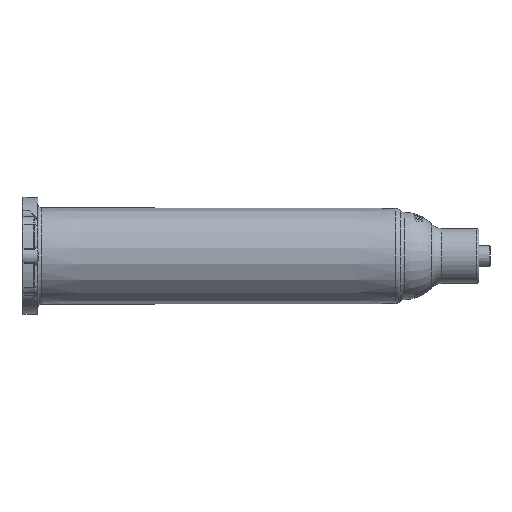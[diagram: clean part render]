
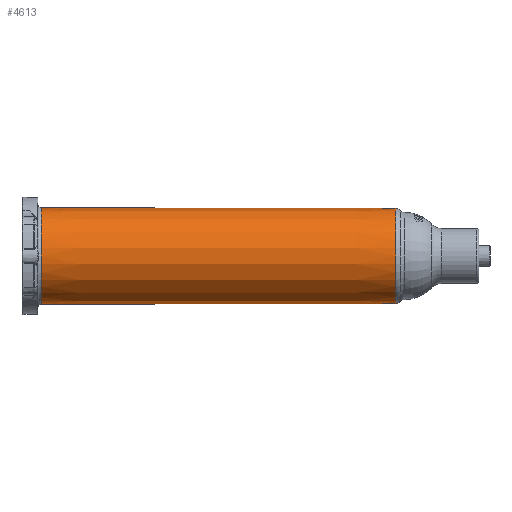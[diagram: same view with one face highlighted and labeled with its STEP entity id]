
A CAD part, left-side view. The second image highlights one B-rep face of the part: STEP entity #4613.
In plain terms, the highlighted conical face has half-angle 0.099 degrees and reference radius 9.228 mm.
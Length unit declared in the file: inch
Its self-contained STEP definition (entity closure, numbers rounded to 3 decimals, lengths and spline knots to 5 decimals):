
#212 = EDGE_CURVE ( 'NONE', #19037, #15911, #1696, .T. ) ;
#370 = EDGE_LOOP ( 'NONE', ( #2321, #16431, #5254, #17527 ) ) ;
#541 = VECTOR ( 'NONE', #8083, 39.37008 ) ;
#1696 = CIRCLE ( 'NONE', #9738, 0.36796 ) ;
#2321 = ORIENTED_EDGE ( 'NONE', *, *, #4052, .F. ) ;
#4052 = EDGE_CURVE ( 'NONE', #7534, #15911, #14780, .T. ) ;
#4613 = ADVANCED_FACE ( 'NONE', ( #15394 ), #14200, .T. ) ;
#5254 = ORIENTED_EDGE ( 'NONE', *, *, #18752, .T. ) ;
#5660 = EDGE_CURVE ( 'NONE', #7534, #7847, #6785, .T. ) ;
#6206 = DIRECTION ( 'NONE',  ( 0., 1., 0. ) ) ;
#6212 = CARTESIAN_POINT ( 'NONE',  ( 0., 0.72092, 0. ) ) ;
#6689 = DIRECTION ( 'NONE',  ( 0., -1., 0. ) ) ;
#6785 = CIRCLE ( 'NONE', #7876, 0.3633 ) ;
#7432 = CARTESIAN_POINT ( 'NONE',  ( 0., 3.42704, -0.36796 ) ) ;
#7534 = VERTEX_POINT ( 'NONE', #15880 ) ;
#7847 = VERTEX_POINT ( 'NONE', #15855 ) ;
#7876 = AXIS2_PLACEMENT_3D ( 'NONE', #6212, #11277, #21965 ) ;
#8083 = DIRECTION ( 'NONE',  ( 0., 1., 0.002 ) ) ;
#8420 = LINE ( 'NONE', #9798, #541 ) ;
#9738 = AXIS2_PLACEMENT_3D ( 'NONE', #10126, #6689, #17150 ) ;
#9756 = VECTOR ( 'NONE', #13065, 39.37008 ) ;
#9774 = AXIS2_PLACEMENT_3D ( 'NONE', #18621, #6206, #20576 ) ;
#9798 = CARTESIAN_POINT ( 'NONE',  ( 0., 0.72092, 0.3633 ) ) ;
#10126 = CARTESIAN_POINT ( 'NONE',  ( 0., 3.42704, 0. ) ) ;
#11277 = DIRECTION ( 'NONE',  ( 0., 1., 0. ) ) ;
#13065 = DIRECTION ( 'NONE',  ( 0., 1., -0.002 ) ) ;
#14200 = CONICAL_SURFACE ( 'NONE', #9774, 0.3633, 0.002 ) ;
#14508 = CARTESIAN_POINT ( 'NONE',  ( 0., 3.42704, 0.36796 ) ) ;
#14780 = LINE ( 'NONE', #21801, #9756 ) ;
#15394 = FACE_OUTER_BOUND ( 'NONE', #370, .T. ) ;
#15855 = CARTESIAN_POINT ( 'NONE',  ( 0., 0.72092, 0.3633 ) ) ;
#15880 = CARTESIAN_POINT ( 'NONE',  ( 0., 0.72092, -0.3633 ) ) ;
#15911 = VERTEX_POINT ( 'NONE', #7432 ) ;
#16431 = ORIENTED_EDGE ( 'NONE', *, *, #5660, .T. ) ;
#17150 = DIRECTION ( 'NONE',  ( 0., 0., 1. ) ) ;
#17527 = ORIENTED_EDGE ( 'NONE', *, *, #212, .T. ) ;
#18621 = CARTESIAN_POINT ( 'NONE',  ( 0., 0.72092, 0. ) ) ;
#18752 = EDGE_CURVE ( 'NONE', #7847, #19037, #8420, .T. ) ;
#19037 = VERTEX_POINT ( 'NONE', #14508 ) ;
#20576 = DIRECTION ( 'NONE',  ( 0., 0., 1. ) ) ;
#21801 = CARTESIAN_POINT ( 'NONE',  ( 0., 0.72092, -0.3633 ) ) ;
#21965 = DIRECTION ( 'NONE',  ( 0., 0., 1. ) ) ;
